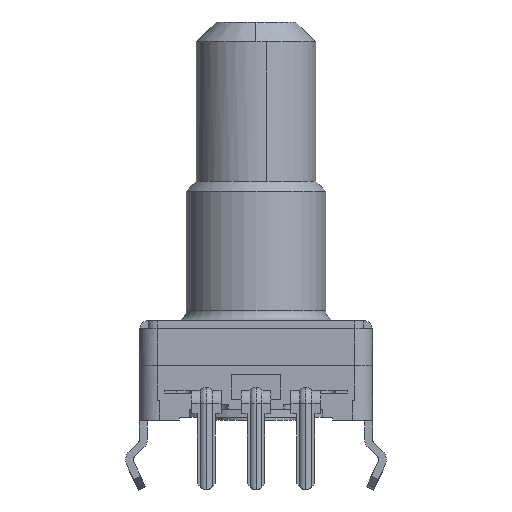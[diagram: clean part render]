
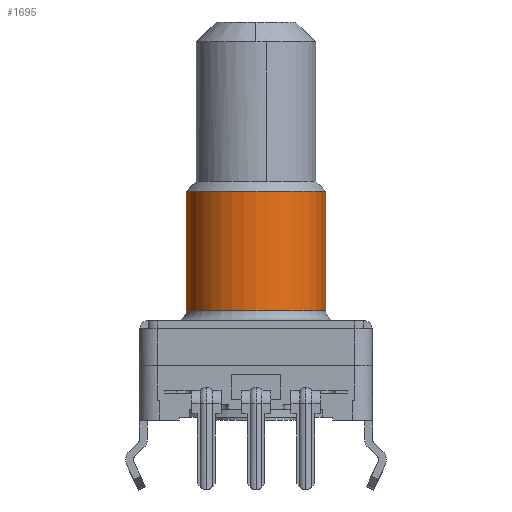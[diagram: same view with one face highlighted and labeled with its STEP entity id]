
A CAD part, front view. The second image highlights one B-rep face of the part: STEP entity #1695.
In plain terms, the highlighted cylindrical face has radius 3.5 mm (diameter 7 mm), a partial arc.
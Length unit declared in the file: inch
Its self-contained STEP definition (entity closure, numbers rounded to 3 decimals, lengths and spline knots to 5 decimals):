
#1695=ADVANCED_FACE('',(#3465),#3466,.T.);
#3465=FACE_OUTER_BOUND('',#5362,.T.);
#3466=CYLINDRICAL_SURFACE('',#5363,0.1378);
#5362=EDGE_LOOP('',(#10479,#10480,#10481,#10482));
#5363=AXIS2_PLACEMENT_3D('',#10483,#10484,#10485);
#10479=ORIENTED_EDGE('',*,*,#11965,.F.);
#10480=ORIENTED_EDGE('',*,*,#12631,.T.);
#10481=ORIENTED_EDGE('',*,*,#11967,.F.);
#10482=ORIENTED_EDGE('',*,*,#11934,.F.);
#10483=CARTESIAN_POINT('',(0.0,0.0,0.45276));
#10484=DIRECTION('',(-0.0,0.0,-1.0));
#10485=DIRECTION('',(-1.0,0.,0.0));
#11934=EDGE_CURVE('',#14678,#14681,#14682,.T.);
#11965=EDGE_CURVE('',#13683,#14678,#14735,.T.);
#11967=EDGE_CURVE('',#14681,#13679,#14737,.T.);
#12631=EDGE_CURVE('',#13683,#13679,#15711,.T.);
#13679=VERTEX_POINT('',#17028);
#13683=VERTEX_POINT('',#17032);
#14678=VERTEX_POINT('',#18474);
#14681=VERTEX_POINT('',#18478);
#14682=CIRCLE('',#18479,0.1378);
#14735=LINE('',#18571,#18572);
#14737=LINE('',#18574,#18575);
#15711=CIRCLE('',#20105,0.1378);
#17028=CARTESIAN_POINT('',(0.1378,0.0,0.21654));
#17032=CARTESIAN_POINT('',(-0.1378,0.,0.21654));
#18474=CARTESIAN_POINT('',(-0.1378,0.,0.45276));
#18478=CARTESIAN_POINT('',(0.1378,0.,0.45276));
#18479=AXIS2_PLACEMENT_3D('',#22254,#22255,#22256);
#18571=CARTESIAN_POINT('',(-0.1378,0.,0.45276));
#18572=VECTOR('',#22284,1.0);
#18574=CARTESIAN_POINT('',(0.1378,0.,0.45276));
#18575=VECTOR('',#22288,1.0);
#20105=AXIS2_PLACEMENT_3D('',#23053,#23054,#23055);
#22254=CARTESIAN_POINT('',(0.0,0.0,0.45276));
#22255=DIRECTION('',(0.0,0.0,1.0));
#22256=DIRECTION('',(1.0,0.,0.0));
#22284=DIRECTION('',(0.0,-0.0,1.0));
#22288=DIRECTION('',(0.0,-0.0,-1.0));
#23053=CARTESIAN_POINT('',(0.0,0.0,0.21654));
#23054=DIRECTION('',(0.0,0.0,1.0));
#23055=DIRECTION('',(1.0,0.0,0.0));
